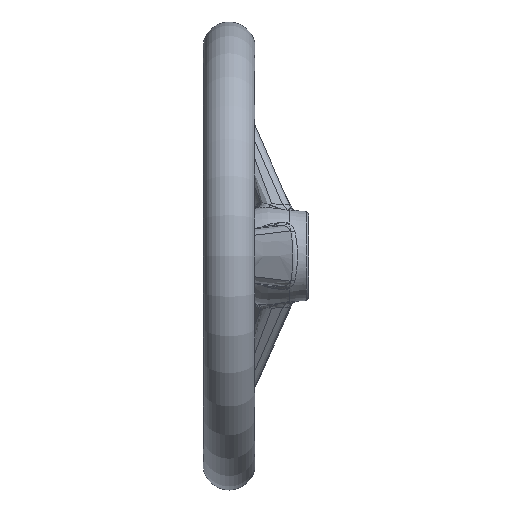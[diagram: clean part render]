
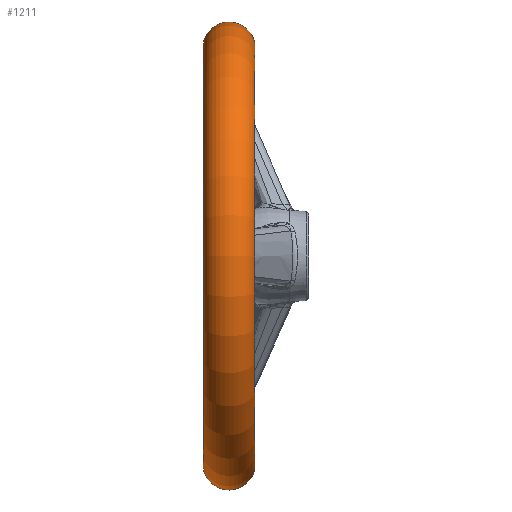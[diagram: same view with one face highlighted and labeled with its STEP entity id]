
A CAD part, left-side view. The second image highlights one B-rep face of the part: STEP entity #1211.
In plain terms, the highlighted toroidal (fillet/blend) face has major radius 88.778 mm and minor radius 11.222 mm.
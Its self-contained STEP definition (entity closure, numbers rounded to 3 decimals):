
#77 = EDGE_CURVE ( 'NONE', #78, #79, #1552, .T. ) ;
#78 = VERTEX_POINT ( 'NONE', #1539 ) ;
#79 = VERTEX_POINT ( 'NONE', #1509 ) ;
#137 = EDGE_CURVE ( 'NONE', #78, #211, #1676, .T. ) ;
#148 = EDGE_CURVE ( 'NONE', #79, #210, #1663, .T. ) ;
#210 = VERTEX_POINT ( 'NONE', #1856 ) ;
#211 = VERTEX_POINT ( 'NONE', #1827 ) ;
#215 = EDGE_CURVE ( 'NONE', #211, #210, #1858, .T. ) ;
#1131 = ORIENTED_EDGE ( 'NONE', *, *, #137, .F. ) ;
#1134 = ORIENTED_EDGE ( 'NONE', *, *, #148, .T. ) ;
#1145 = ORIENTED_EDGE ( 'NONE', *, *, #215, .F. ) ;
#1152 = EDGE_LOOP ( 'NONE', ( #1131, #1165, #1134, #1145 ) ) ;
#1165 = ORIENTED_EDGE ( 'NONE', *, *, #77, .T. ) ;
#1211 = ADVANCED_FACE ( 'NONE', ( #21277 ), #21312, .T. ) ;
#1509 = CARTESIAN_POINT ( 'NONE',  ( 0., 45., -91. ) ) ;
#1535 = DIRECTION ( 'NONE',  ( 0., 0., -1. ) ) ;
#1536 = DIRECTION ( 'NONE',  ( 0., -1., 0. ) ) ;
#1537 = AXIS2_PLACEMENT_3D ( 'NONE', #1542, #1536, #1535 ) ;
#1539 = CARTESIAN_POINT ( 'NONE',  ( 0., 45., 91. ) ) ;
#1542 = CARTESIAN_POINT ( 'NONE',  ( 0., 45., 0. ) ) ;
#1552 = CIRCLE ( 'NONE', #1537, 91. ) ;
#1630 = CARTESIAN_POINT ( 'NONE',  ( 0., 34., 88.778 ) ) ;
#1663 = CIRCLE ( 'NONE', #1714, 11.222 ) ;
#1664 = DIRECTION ( 'NONE',  ( 0., 0., -1. ) ) ;
#1665 = DIRECTION ( 'NONE',  ( 1., 0., 0. ) ) ;
#1670 = AXIS2_PLACEMENT_3D ( 'NONE', #1630, #1665, #1664 ) ;
#1676 = CIRCLE ( 'NONE', #1670, 11.222 ) ;
#1712 = DIRECTION ( 'NONE',  ( 0., 0., 1. ) ) ;
#1713 = DIRECTION ( 'NONE',  ( -1., 0., 0. ) ) ;
#1714 = AXIS2_PLACEMENT_3D ( 'NONE', #1718, #1713, #1712 ) ;
#1718 = CARTESIAN_POINT ( 'NONE',  ( 0., 34., -88.778 ) ) ;
#1826 = CARTESIAN_POINT ( 'NONE',  ( 0., 23., 0. ) ) ;
#1827 = CARTESIAN_POINT ( 'NONE',  ( 0., 23., 91. ) ) ;
#1856 = CARTESIAN_POINT ( 'NONE',  ( 0., 23., -91. ) ) ;
#1858 = CIRCLE ( 'NONE', #1894, 91. ) ;
#1880 = DIRECTION ( 'NONE',  ( 0., 0., -1. ) ) ;
#1881 = DIRECTION ( 'NONE',  ( 0., -1., 0. ) ) ;
#1894 = AXIS2_PLACEMENT_3D ( 'NONE', #1826, #1881, #1880 ) ;
#21274 = DIRECTION ( 'NONE',  ( 0., 0., -1. ) ) ;
#21275 = DIRECTION ( 'NONE',  ( 0., -1., 0. ) ) ;
#21277 = FACE_OUTER_BOUND ( 'NONE', #1152, .T. ) ;
#21299 = AXIS2_PLACEMENT_3D ( 'NONE', #21303, #21275, #21274 ) ;
#21303 = CARTESIAN_POINT ( 'NONE',  ( 0., 34., 0. ) ) ;
#21312 = TOROIDAL_SURFACE ( 'NONE', #21299, 88.778, 11.222 ) ;
